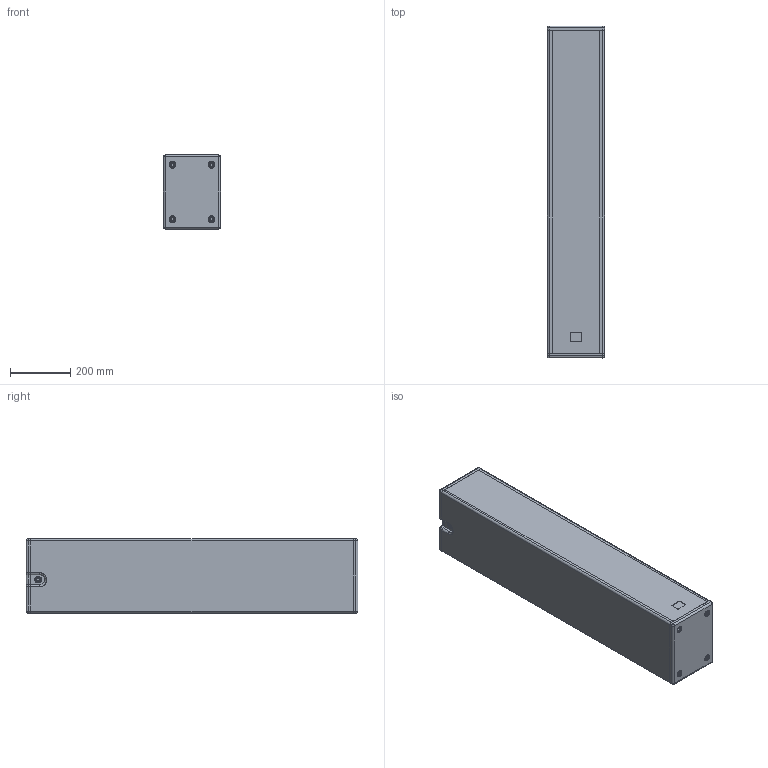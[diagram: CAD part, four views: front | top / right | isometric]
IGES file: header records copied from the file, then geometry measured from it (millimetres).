
Start section: SolidWorks IGES file using analytic representation for surfaces
Global section: file name: C:\Documents and Settings\Administrator\My Documents\Michl\SolidWorks\3d_Dateien_Homepage\Neue-Produkte\SEEBURG_Monopod-GL16.IGS; native system: SolidWorks 2009; preprocessor: SolidWorks 2009; author: Administrator; date: 140404.090243; units: millimetre
Bounding box: 189 x 1100 x 245.75 mm (x, y, z)
Surface area: 2102949.2 mm2 (no closed solid volume)
Topology: 0 solids, 0 shells, 408 faces, 5756 edges, 5751 vertices
Faces by surface type: revolution 252, bspline 156
